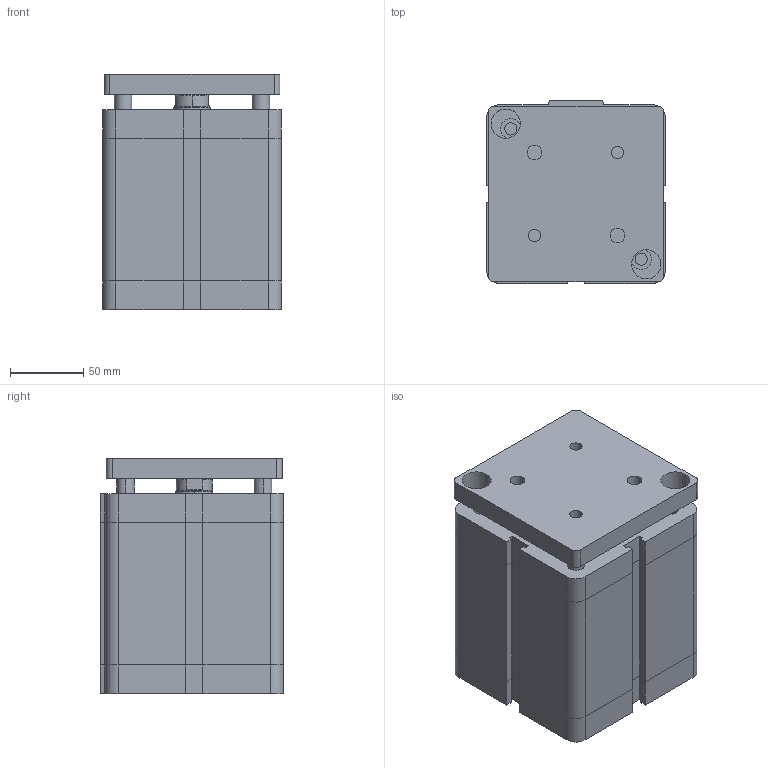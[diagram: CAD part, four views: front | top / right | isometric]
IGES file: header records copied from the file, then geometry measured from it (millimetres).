
Global section: file name: No Iges File Name specified; native system: Autodesk Inventor 2009; preprocessor: AutoDesk Inventor Iges Exporter R2009; author: maffial1; date: 20090420.201309; units: millimetre
Bounding box: 122 x 125 x 160.5 mm (x, y, z)
Volume: 2193482.3 mm3; surface area: 170049.2 mm2
Topology: 2 solids, 2 shells, 212 faces, 486 edges, 298 vertices
Faces by surface type: plane 111, bspline 67, cylinder 26, cone 8
